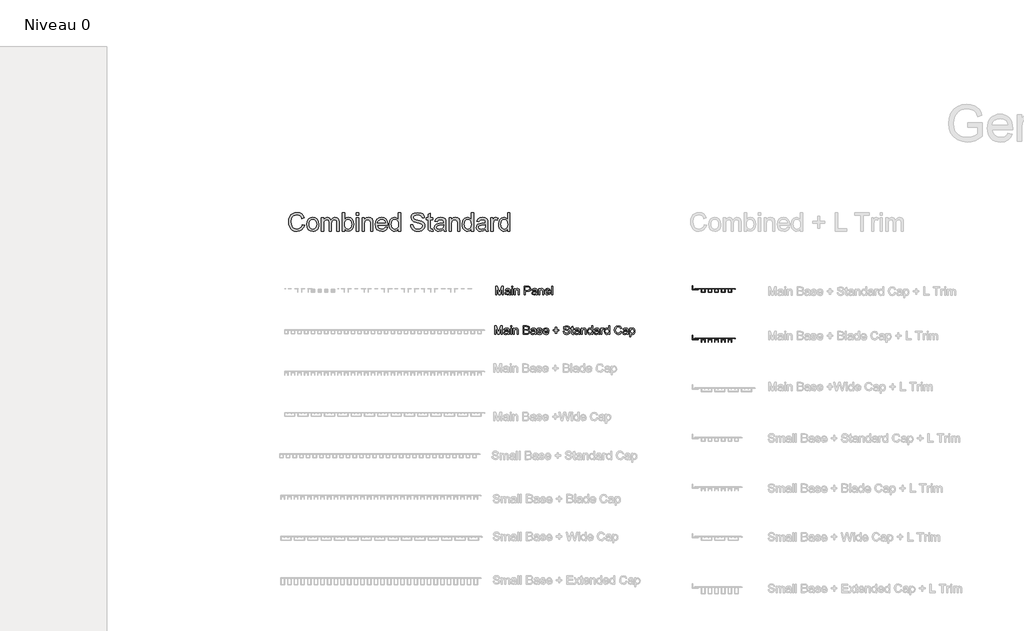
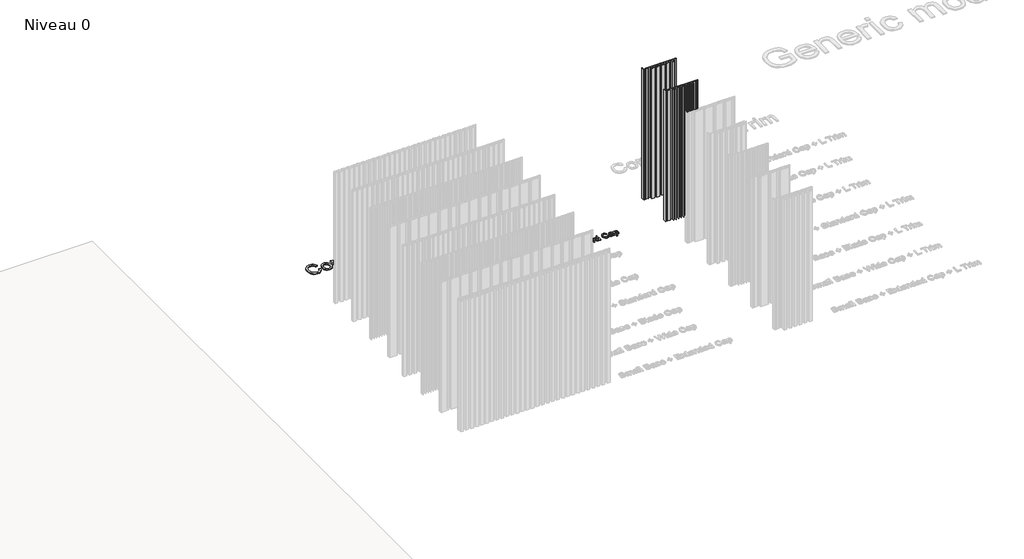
# One storey, part 8 of 25: 5 proxies.
"""IFC4 building model written with IfcOpenShell, lengths in millimetres."""

from ifc_helpers import new_model, si_unit, origin, origin_with_axes, place, context, project, spatial, polyline, outline, extrude, transform, mapped, element, save
from components import generic_models_4bb52701, generic_models_e953c286

model = new_model("IFC4")

# Units and contexts
model_context = context("Model", 3, world=origin())
ifc_project = project(units=[si_unit("LENGTHUNIT", "METRE", prefix="MILLI")], contexts=[model_context])

# Site, building, storey
site = spatial("IfcSite", under=ifc_project)
building = spatial("IfcBuilding", under=site)
storey = spatial("IfcBuildingStorey", under=building, Name="Niveau 0", Elevation=0.0)

# Proxies
placement = place(None, origin())
generic_models_shape = generic_models_4bb52701(model_context)
element("IfcBuildingElementProxy", 1, Name="A_GEN_LINE_Main Base_Standard Cap_LTrim : A_GEN_LINE_Main Base_Standard Cap_LTrim", ObjectType="A_GEN_LINE_Main Base_Standard Cap_LTrim : A_GEN_LINE_Main Base_Standard Cap_LTrim", at=placement, inside=storey, context=model_context, shape_type="MappedRepresentation", body=[
    mapped(generic_models_shape, transform((-23.2337478, 4570.5855038, 0.0), x_axis=(1.0, 0.0, 0.0), y_axis=(0.0, 1.0, 0.0), z_axis=(0.0, 0.0, 1.0))),
])
generic_models_2_shape = generic_models_e953c286(model_context)
element("IfcBuildingElementProxy", 2, Name="A_GEN_LINE_Main Base_Blade Cap_LTrim : A_GEN_LINE_Main Base_Blade Cap_LTrim", ObjectType="A_GEN_LINE_Main Base_Blade Cap_LTrim : A_GEN_LINE_Main Base_Blade Cap_LTrim", at=placement, inside=storey, context=model_context, shape_type="MappedRepresentation", body=[
    mapped(generic_models_2_shape, transform((-23.2337478, 4160.8335735, 0.0), x_axis=(1.0, 0.0, 0.0), y_axis=(0.0, 1.0, 0.0), z_axis=(0.0, 0.0, 1.0))),
])
element("IfcBuildingElementProxy", 3, Name="150 mm Arial", ObjectType="150 mm Arial", at=placement, inside=storey, context=model_context, shape_type="SweptSolid", body=[
    extrude(outline(polyline([(-3266.8532918, 5099.4454374), (-3248.0177336, 5094.5893951), (-3256.7089457, 5072.6406355), (-3270.3481707, 5056.6055791), (-3288.2640239, 5046.7969254), (-3309.7851206, 5043.5273741), (-3331.6327126, 5046.0013806), (-3348.9829472, 5053.4233998), (-3362.2818813, 5065.5359145), (-3371.9755719, 5082.0814072), (-3377.8938735, 5101.5331677), (-3379.8666407, 5122.3644857), (-3377.6363561, 5144.3362379), (-3370.9455023, 5163.3097518), (-3360.1435672, 5178.6826207), (-3345.5800387, 5189.8524377), (-3328.307979, 5196.6536561), (-3309.3804504, 5198.9207289), (-3288.7284749, 5195.98687), (-3271.6541518, 5187.1852933), (-3258.69091, 5173.0586246), (-3250.3721784, 5154.1494901), (-3269.2077365, 5149.6613298), (-3275.7376419, 5163.3971238), (-3284.6587803, 5172.8195014), (-3296.0815163, 5178.2687534), (-3310.1162144, 5180.0851708), (-3326.2938251, 5178.0710168), (-3339.5835622, 5172.0285551), (-3349.6681274, 5162.5923819), (-3356.2302225, 5150.3970937), (-3361.0310825, 5122.4012739), (-3359.6101383, 5105.0004555), (-3355.3473057, 5089.9540819), (-3348.0816363, 5077.8369687), (-3337.6521817, 5069.2239315), (-3325.1487924, 5064.0781821), (-3311.6613188, 5062.3629323), (-3295.938962, 5064.698983), (-3282.8377644, 5071.707135), (-3272.9463373, 5083.3138119), (-3266.8532918, 5099.4454374)])), origin_with_axes(), (0.0, 0.0, 1.0), 10.0),
    extrude(outline(polyline([(-3229.1821754, 5101.211271), (-3225.1078824, 5127.8919127), (-3212.8850031, 5146.6446974), (-3197.7834472, 5155.8325502), (-3179.7020471, 5158.8951678), (-3159.9145943, 5155.1657641), (-3144.1094641, 5143.9775529), (-3133.7489874, 5126.2134511), (-3130.2954951, 5102.7563754), (-3131.8222054, 5083.7276792), (-3136.4023363, 5069.2423256), (-3143.9025304, 5058.3944053), (-3154.1894307, 5050.2780088), (-3166.4077115, 5045.2150328), (-3179.7020471, 5043.5273741), (-3199.7286232, 5047.2429823), (-3215.5153593, 5058.3898068), (-3225.7654714, 5076.5263891), (-3229.1821754, 5101.211271)]), holes=[polyline([(-3210.3466173, 5101.2480592), (-3208.1669165, 5084.2013272), (-3201.627814, 5072.0566229), (-3191.7869706, 5064.7863549), (-3179.7020471, 5062.3629323), (-3167.6723059, 5064.8001505), (-3157.8498566, 5072.1118052), (-3151.3107541, 5084.4174579), (-3149.1310533, 5101.8366704), (-3151.3245497, 5118.3867616), (-3157.9050389, 5130.3659191), (-3167.7412837, 5137.636187), (-3179.7020471, 5140.0596097), (-3191.7869706, 5137.6453841), (-3201.627814, 5130.4027073), (-3208.1669165, 5118.2855941), (-3210.3466173, 5101.2480592)])]), origin_with_axes(), (0.0, 0.0, 1.0), 10.0),
    extrude(outline(polyline([(-3109.1054922, 5045.8818189), (-3109.1054922, 5156.5407231), (-3090.2699341, 5156.5407231), (-3090.2699341, 5138.3305643), (-3077.3204878, 5153.2481792), (-3058.8895999, 5158.8951678), (-3048.4141601, 5157.4558295), (-3040.0172535, 5153.1378146), (-3029.6429813, 5137.0061891), (-3014.9460956, 5153.4229232), (-2996.3864489, 5158.8951678), (-2982.2275906, 5156.618898), (-2971.7567493, 5149.7900885), (-2965.2866247, 5138.2247982), (-2963.1299165, 5121.7390863), (-2963.1299165, 5045.8818189), (-2981.9654747, 5045.8818189), (-2981.9654747, 5113.6456824), (-2983.7129142, 5129.3726377), (-2990.0404845, 5137.1165537), (-3000.8010328, 5140.0596097), (-3011.0051597, 5138.1742145), (-3019.3238913, 5132.5180288), (-3024.8559168, 5122.7047766), (-3026.6999253, 5108.3481817), (-3026.6999253, 5045.8818189), (-3045.5354835, 5045.8818189), (-3045.5354835, 5115.7426098), (-3049.8948851, 5133.9895568), (-3055.6476398, 5138.5420965), (-3064.1871006, 5140.0596097), (-3078.1298282, 5136.0129077), (-3087.4004545, 5124.1671075), (-3090.2699341, 5101.6895176), (-3090.2699341, 5045.8818189), (-3109.1054922, 5045.8818189)])), origin_with_axes(), (0.0, 0.0, 1.0), 10.0),
    extrude(outline(polyline([(-2916.0410212, 5045.8818189), (-2934.8765793, 5045.8818189), (-2934.8765793, 5196.5662841), (-2916.0410212, 5196.5662841), (-2916.0410212, 5140.6850091), (-2902.8524516, 5154.3426281), (-2886.4633087, 5158.8951678), (-2867.5909624, 5154.7932836), (-2852.949259, 5143.260183), (-2843.9545442, 5125.3259358), (-2840.6987885, 5102.86674), (-2844.0695073, 5077.7220056), (-2854.1816637, 5059.0152061), (-2869.0211036, 5047.3993321), (-2886.5736733, 5043.5273741), (-2903.3215012, 5048.5213722), (-2916.0410212, 5063.5033665), (-2916.0410212, 5045.8818189)]), holes=[polyline([(-2916.0410212, 5101.9838232), (-2914.7534342, 5086.275262), (-2910.8906732, 5075.6434723), (-2901.0222387, 5065.6830673), (-2888.1923541, 5062.3629323), (-2877.3214412, 5064.8093476), (-2868.0324208, 5072.1485934), (-2861.6588652, 5084.3346845), (-2859.5343467, 5101.3216356), (-2861.5714932, 5118.5569071), (-2867.6829329, 5130.6050424), (-2876.6822462, 5137.6959679), (-2887.3830137, 5140.0596097), (-2898.2539267, 5137.6131944), (-2907.5429471, 5130.2739486), (-2913.9165026, 5118.3085867), (-2916.0410212, 5101.9838232)])]), origin_with_axes(), (0.0, 0.0, 1.0), 10.0),
    extrude(outline(polyline([(-2819.5087856, 5045.8818189), (-2819.5087856, 5156.5407231), (-2800.6732275, 5156.5407231), (-2800.6732275, 5045.8818189), (-2819.5087856, 5045.8818189)])), origin_with_axes(), (0.0, 0.0, 1.0), 10.0),
    extrude(outline(polyline([(-2819.5087856, 5177.730726), (-2819.5087856, 5196.5662841), (-2800.6732275, 5196.5662841), (-2800.6732275, 5177.730726), (-2819.5087856, 5177.730726)])), origin_with_axes(), (0.0, 0.0, 1.0), 10.0),
    extrude(outline(polyline([(-2772.4198902, 5045.8818189), (-2772.4198902, 5156.5407231), (-2753.5843321, 5156.5407231), (-2753.5843321, 5141.0896793), (-2739.181752, 5154.4437957), (-2719.5184593, 5158.8951678), (-2701.7313649, 5155.3083184), (-2689.591259, 5145.8905393), (-2683.9442704, 5132.0397822), (-2682.950989, 5113.8296234), (-2682.950989, 5045.8818189), (-2701.7865472, 5045.8818189), (-2701.7865472, 5111.2912377), (-2703.9570509, 5127.956292), (-2711.6273905, 5136.7670658), (-2724.5584427, 5140.0596097), (-2735.590304, 5138.2110027), (-2744.9942875, 5132.6651816), (-2751.4368209, 5121.9506185), (-2753.5843321, 5104.5957853), (-2753.5843321, 5045.8818189), (-2772.4198902, 5045.8818189)])), origin_with_axes(), (0.0, 0.0, 1.0), 10.0),
    extrude(outline(polyline([(-2579.5761484, 5078.8440457), (-2561.1084722, 5076.4896009), (-2567.7625378, 5062.5744644), (-2578.3805319, 5052.172601), (-2592.7233312, 5045.6886809), (-2610.5518124, 5043.5273741), (-2632.6523232, 5047.2567779), (-2649.6576684, 5058.4449891), (-2660.5009903, 5076.3654407), (-2664.1154309, 5100.291566), (-2660.4642021, 5125.0224331), (-2649.5105156, 5143.5177004), (-2632.7350967, 5155.050801), (-2611.6186701, 5158.8951678), (-2591.1598327, 5155.059998), (-2574.8120765, 5143.5544886), (-2564.0929149, 5125.0960095), (-2560.519861, 5100.4019306), (-2560.6302256, 5095.3251591), (-2645.2798727, 5095.3251591), (-2642.0195185, 5081.2260816), (-2634.4457479, 5070.8610064), (-2623.5150542, 5064.4874508), (-2610.1839304, 5062.3629323), (-2591.7162542, 5066.2992696), (-2579.5761484, 5078.8440457)]), holes=[polyline([(-2645.2798727, 5114.1607172), (-2579.3554192, 5114.1607172), (-2581.903002, 5124.1119252), (-2586.8970001, 5131.2304418), (-2597.8782776, 5137.8523177), (-2611.6922465, 5140.0596097), (-2624.3887739, 5138.2983746), (-2634.8872063, 5133.0146695), (-2642.1850654, 5124.7787113), (-2645.2798727, 5114.1607172)])]), origin_with_axes(), (0.0, 0.0, 1.0), 10.0),
    extrude(outline(polyline([(-2473.4054046, 5045.8818189), (-2473.4054046, 5063.6505193), (-2485.8674071, 5048.5581604), (-2503.0934816, 5043.5273741), (-2515.2703756, 5045.34839), (-2526.4172001, 5050.8114377), (-2535.8533732, 5059.5348395), (-2542.8983134, 5071.1369179), (-2547.2853062, 5085.1486234), (-2548.7476372, 5101.1009064), (-2543.3581659, 5131.083289), (-2536.6259254, 5142.9750745), (-2527.2081464, 5151.7214689), (-2515.8176001, 5157.1017431), (-2503.167058, 5158.8951678), (-2485.8030278, 5153.763214), (-2473.4054046, 5140.4274917), (-2473.4054046, 5196.5662841), (-2454.5698464, 5196.5662841), (-2454.5698464, 5045.8818189), (-2473.4054046, 5045.8818189)]), holes=[polyline([(-2529.912079, 5101.1744828), (-2527.7875605, 5084.1369479), (-2521.4140049, 5072.0198347), (-2512.1525757, 5064.7771579), (-2501.3644362, 5062.3629323), (-2490.5808952, 5064.6667933), (-2481.5539908, 5071.5783763), (-2475.4425511, 5083.22644), (-2473.4054046, 5099.739743), (-2475.4793393, 5117.7935519), (-2481.7011435, 5130.3107368), (-2490.9579743, 5137.6223915), (-2502.1369884, 5140.0596097), (-2513.0354925, 5137.7189605), (-2521.9658279, 5130.6970129), (-2527.9255162, 5118.635082), (-2529.912079, 5101.1744828)])]), origin_with_axes(), (0.0, 0.0, 1.0), 10.0),
    extrude(outline(polyline([(-2372.1642795, 5097.6796038), (-2353.3287213, 5097.6796038), (-2347.2586684, 5078.8256516), (-2332.433024, 5066.9062749), (-2309.8450695, 5062.3629323), (-2290.1633828, 5065.802629), (-2277.4530598, 5075.2571962), (-2273.2775992, 5087.8939428), (-2276.4045961, 5099.6477725), (-2289.2068896, 5108.2010289), (-2316.6324923, 5115.3931219), (-2346.1550224, 5124.6821423), (-2362.1762833, 5138.6984463), (-2367.4553899, 5157.4236399), (-2365.8229136, 5168.4555012), (-2360.9254845, 5178.7424015), (-2352.8918615, 5187.4612048), (-2341.8508031, 5193.7887751), (-2313.9285596, 5198.9207289), (-2284.130118, 5193.5496518), (-2272.7073821, 5186.9185788), (-2264.2644903, 5177.7675142), (-2258.9210043, 5166.666675), (-2256.7964858, 5154.1862783), (-2275.632044, 5154.1862783), (-2279.0901347, 5165.4250732), (-2286.3006218, 5173.5368712), (-2297.5670079, 5178.4480959), (-2313.1927957, 5180.0851708), (-2329.1864654, 5178.46649), (-2340.1585459, 5173.6104476), (-2346.5045103, 5166.4643399), (-2348.6198318, 5157.9754628), (-2347.1207127, 5150.7373846), (-2342.6233553, 5144.915652), (-2311.8684205, 5134.394227), (-2278.5383117, 5124.9396597), (-2267.800756, 5118.1062516), (-2260.3097589, 5109.6725569), (-2255.9089705, 5099.730546), (-2254.442041, 5088.3721894), (-2256.1296997, 5076.7609139), (-2261.1926756, 5065.8394172), (-2269.4240353, 5056.4400322), (-2280.616845, 5049.395092), (-2294.0767275, 5044.9943036), (-2309.1093055, 5043.5273741), (-2327.5631861, 5045.1092667), (-2342.752114, 5049.8549445), (-2354.8508331, 5057.7828015), (-2364.0340874, 5068.9112318), (-2369.9293964, 5082.4676833), (-2372.1642795, 5097.6796038)])), origin_with_axes(), (0.0, 0.0, 1.0), 10.0),
    extrude(outline(polyline([(-2188.5175875, 5061.5903801), (-2186.1631427, 5045.3299959), (-2200.2530231, 5043.5273741), (-2216.0351607, 5046.6543711), (-2223.9078354, 5054.8581396), (-2226.1887038, 5076.2320835), (-2226.1887038, 5137.7051649), (-2240.3153724, 5137.7051649), (-2240.3153724, 5156.5407231), (-2226.1887038, 5156.5407231), (-2226.1887038, 5183.4328969), (-2207.3531456, 5194.506145), (-2207.3531456, 5156.5407231), (-2188.5175875, 5156.5407231), (-2188.5175875, 5137.7051649), (-2207.3531456, 5137.7051649), (-2207.3531456, 5076.7839065), (-2206.3598643, 5067.0718218), (-2203.1408968, 5063.6321252), (-2196.721356, 5062.3629323), (-2188.5175875, 5061.5903801)])), origin_with_axes(), (0.0, 0.0, 1.0), 10.0),
    extrude(outline(polyline([(-2099.0486863, 5060.0084875), (-2117.3140273, 5047.2429823), (-2137.4923548, 5043.5273741), (-2153.2331056, 5045.7622573), (-2164.8443811, 5052.4669066), (-2172.0042844, 5062.6480408), (-2174.3909189, 5075.3123785), (-2170.7856753, 5090.2115993), (-2161.3127139, 5101.02733), (-2148.1241444, 5107.2077475), (-2131.826972, 5110.0404389), (-2099.1590509, 5116.515162), (-2099.0486863, 5120.7090167), (-2100.3454703, 5129.1151203), (-2104.2358224, 5134.6149562), (-2112.9362316, 5138.6984463), (-2125.0579433, 5140.0596097), (-2144.1142307, 5136.435972), (-2153.200916, 5123.5784963), (-2172.0364741, 5125.9329411), (-2163.8878879, 5144.3270408), (-2147.4803509, 5155.1059833), (-2122.6299222, 5158.8951678), (-2099.8028444, 5155.5474417), (-2086.9085804, 5147.1413381), (-2081.1328331, 5134.3574388), (-2080.2131281, 5117.8763254), (-2080.2131281, 5094.4422423), (-2079.2566349, 5061.7191388), (-2075.5042386, 5045.8818189), (-2094.3397967, 5045.8818189), (-2099.0486863, 5060.0084875)]), holes=[polyline([(-2099.0486863, 5097.6796038), (-2129.4357391, 5091.9038565), (-2145.640941, 5088.850436), (-2152.9801868, 5083.884029), (-2155.5553607, 5076.6367537), (-2149.9451603, 5066.4464224), (-2133.482441, 5062.3629323), (-2114.4261537, 5066.8694867), (-2102.138895, 5077.7771879), (-2099.1590509, 5092.3453149), (-2099.0486863, 5097.6796038)])]), origin_with_axes(), (0.0, 0.0, 1.0), 10.0),
    extrude(outline(polyline([(-2054.3142357, 5045.8818189), (-2054.3142357, 5156.5407231), (-2035.4786775, 5156.5407231), (-2035.4786775, 5141.0896793), (-2021.0760974, 5154.4437957), (-2001.4128047, 5158.8951678), (-1983.6257103, 5155.3083184), (-1971.4856044, 5145.8905393), (-1965.8386158, 5132.0397822), (-1964.8453344, 5113.8296234), (-1964.8453344, 5045.8818189), (-1983.6808926, 5045.8818189), (-1983.6808926, 5111.2912377), (-1985.8513963, 5127.956292), (-1993.5217359, 5136.7670658), (-2006.4527881, 5140.0596097), (-2017.4846494, 5138.2110027), (-2026.8886329, 5132.6651816), (-2033.3311664, 5121.9506185), (-2035.4786775, 5104.5957853), (-2035.4786775, 5045.8818189), (-2054.3142357, 5045.8818189)])), origin_with_axes(), (0.0, 0.0, 1.0), 10.0),
    extrude(outline(polyline([(-1870.6675437, 5045.8818189), (-1870.6675437, 5063.6505193), (-1883.1295462, 5048.5581604), (-1900.3556207, 5043.5273741), (-1912.5325147, 5045.34839), (-1923.6793392, 5050.8114377), (-1933.1155123, 5059.5348395), (-1940.1604525, 5071.1369179), (-1944.5474453, 5085.1486234), (-1946.0097763, 5101.1009064), (-1940.620305, 5131.083289), (-1933.8880645, 5142.9750745), (-1924.4702855, 5151.7214689), (-1913.0797392, 5157.1017431), (-1900.4291971, 5158.8951678), (-1883.0651669, 5153.763214), (-1870.6675437, 5140.4274917), (-1870.6675437, 5196.5662841), (-1851.8319855, 5196.5662841), (-1851.8319855, 5045.8818189), (-1870.6675437, 5045.8818189)]), holes=[polyline([(-1927.1742181, 5101.1744828), (-1925.0496996, 5084.1369479), (-1918.676144, 5072.0198347), (-1909.4147148, 5064.7771579), (-1898.6265753, 5062.3629323), (-1887.8430343, 5064.6667933), (-1878.8161299, 5071.5783763), (-1872.7046902, 5083.22644), (-1870.6675437, 5099.739743), (-1872.7414784, 5117.7935519), (-1878.9632827, 5130.3107368), (-1888.2201134, 5137.6223915), (-1899.3991275, 5140.0596097), (-1910.2976316, 5137.7189605), (-1919.227967, 5130.6970129), (-1925.1876553, 5118.635082), (-1927.1742181, 5101.1744828)])]), origin_with_axes(), (0.0, 0.0, 1.0), 10.0),
    extrude(outline(polyline([(-1752.9453052, 5060.0084875), (-1771.2106463, 5047.2429823), (-1791.3889737, 5043.5273741), (-1807.1297246, 5045.7622573), (-1818.741, 5052.4669066), (-1825.9009034, 5062.6480408), (-1828.2875378, 5075.3123785), (-1824.6822943, 5090.2115993), (-1815.2093329, 5101.02733), (-1802.0207634, 5107.2077475), (-1785.723591, 5110.0404389), (-1753.0556698, 5116.515162), (-1752.9453052, 5120.7090167), (-1754.2420892, 5129.1151203), (-1758.1324413, 5134.6149562), (-1766.8328505, 5138.6984463), (-1778.9545623, 5140.0596097), (-1798.0108496, 5136.435972), (-1807.0975349, 5123.5784963), (-1825.933093, 5125.9329411), (-1817.7845069, 5144.3270408), (-1801.3769699, 5155.1059833), (-1776.5265411, 5158.8951678), (-1753.6994633, 5155.5474417), (-1740.8051994, 5147.1413381), (-1735.029452, 5134.3574388), (-1734.1097471, 5117.8763254), (-1734.1097471, 5094.4422423), (-1733.1532539, 5061.7191388), (-1729.4008575, 5045.8818189), (-1748.2364157, 5045.8818189), (-1752.9453052, 5060.0084875)]), holes=[polyline([(-1752.9453052, 5097.6796038), (-1783.332358, 5091.9038565), (-1799.5375599, 5088.850436), (-1806.8768057, 5083.884029), (-1809.4519797, 5076.6367537), (-1803.8417792, 5066.4464224), (-1787.37906, 5062.3629323), (-1768.3227726, 5066.8694867), (-1756.035514, 5077.7771879), (-1753.0556698, 5092.3453149), (-1752.9453052, 5097.6796038)])]), origin_with_axes(), (0.0, 0.0, 1.0), 10.0),
    extrude(outline(polyline([(-1708.2108546, 5045.8818189), (-1708.2108546, 5156.5407231), (-1691.7297412, 5156.5407231), (-1691.7297412, 5140.1699743), (-1680.0310938, 5155.2531361), (-1668.2588699, 5158.8951678), (-1649.3497354, 5153.0826323), (-1655.6405175, 5136.1968487), (-1668.8842693, 5140.0596097), (-1679.5344531, 5136.3440015), (-1686.3218759, 5126.0433057), (-1689.3752964, 5104.0439624), (-1689.3752964, 5045.8818189), (-1708.2108546, 5045.8818189)])), origin_with_axes(), (0.0, 0.0, 1.0), 10.0),
    extrude(outline(polyline([(-1569.2986132, 5045.8818189), (-1569.2986132, 5063.6505193), (-1581.7606158, 5048.5581604), (-1598.9866902, 5043.5273741), (-1611.1635843, 5045.34839), (-1622.3104087, 5050.8114377), (-1631.7465819, 5059.5348395), (-1638.7915221, 5071.1369179), (-1643.1785149, 5085.1486234), (-1644.6408458, 5101.1009064), (-1639.2513746, 5131.083289), (-1632.5191341, 5142.9750745), (-1623.101355, 5151.7214689), (-1611.7108087, 5157.1017431), (-1599.0602666, 5158.8951678), (-1581.6962364, 5153.763214), (-1569.2986132, 5140.4274917), (-1569.2986132, 5196.5662841), (-1550.4630551, 5196.5662841), (-1550.4630551, 5045.8818189), (-1569.2986132, 5045.8818189)]), holes=[polyline([(-1625.8052877, 5101.1744828), (-1623.6807691, 5084.1369479), (-1617.3072136, 5072.0198347), (-1608.0457844, 5064.7771579), (-1597.2576448, 5062.3629323), (-1586.4741039, 5064.6667933), (-1577.4471994, 5071.5783763), (-1571.3357598, 5083.22644), (-1569.2986132, 5099.739743), (-1571.372548, 5117.7935519), (-1577.5943522, 5130.3107368), (-1586.8511829, 5137.6223915), (-1598.030197, 5140.0596097), (-1608.9287011, 5137.7189605), (-1617.8590366, 5130.6970129), (-1623.8187249, 5118.635082), (-1625.8052877, 5101.1744828)])]), origin_with_axes(), (0.0, 0.0, 1.0), 10.0),
])
element("IfcBuildingElementProxy", 4, Name="70mm Arial", ObjectType="70mm Arial", at=placement, inside=storey, context=model_context, shape_type="SweptSolid", body=[
    extrude(outline(polyline([(-1669.0322913, 4518.965849), (-1669.0322913, 4589.2852661), (-1653.9074362, 4589.2852661), (-1639.5207977, 4539.7217512), (-1636.619435, 4529.3695518), (-1633.4777228, 4540.5801425), (-1619.3314338, 4589.2852661), (-1604.2065787, 4589.2852661), (-1604.2065787, 4518.965849), (-1612.9965058, 4518.965849), (-1612.9965058, 4580.495339), (-1630.6621992, 4518.965849), (-1642.5766708, 4518.965849), (-1660.2423642, 4580.495339), (-1660.2423642, 4518.965849), (-1669.0322913, 4518.965849)])), origin_with_axes(), (0.0, 0.0, 1.0), 10.0),
    extrude(outline(polyline([(-1556.9607203, 4525.5582944), (-1565.4845461, 4519.6010586), (-1574.901099, 4517.8671081), (-1587.6653779, 4522.0388899), (-1592.1204289, 4532.7001102), (-1590.4379819, 4539.6530799), (-1586.0172666, 4544.7004208), (-1579.8626008, 4547.5846157), (-1572.2572537, 4548.9065383), (-1557.0122238, 4551.9280758), (-1556.9607203, 4553.885208), (-1559.3813838, 4560.3746464), (-1569.0983736, 4562.9154847), (-1577.9913077, 4561.2244538), (-1582.2317608, 4555.2242984), (-1591.021688, 4556.3230393), (-1587.2190144, 4564.9069526), (-1579.5621638, 4569.9371257), (-1567.9652971, 4571.7054118), (-1557.3126608, 4570.1431396), (-1551.2953376, 4566.2202913), (-1548.5999888, 4560.2544716), (-1548.1707932, 4552.5632853), (-1548.1707932, 4541.6273799), (-1547.7244297, 4526.3565983), (-1545.9733114, 4518.965849), (-1554.7632385, 4518.965849), (-1556.9607203, 4525.5582944)]), holes=[polyline([(-1556.9607203, 4543.1381486), (-1571.141345, 4540.4427999), (-1578.7037725, 4539.0178703), (-1582.1287539, 4536.7002137), (-1583.3305017, 4533.3181519), (-1580.7124082, 4528.562664), (-1573.0298059, 4526.6570352), (-1564.1368718, 4528.760094), (-1558.4028177, 4533.8503545), (-1557.0122238, 4540.6488138), (-1556.9607203, 4543.1381486)])]), origin_with_axes(), (0.0, 0.0, 1.0), 10.0),
    extrude(outline(polyline([(-1536.0846434, 4518.965849), (-1536.0846434, 4570.6066709), (-1527.2947162, 4570.6066709), (-1527.2947162, 4518.965849), (-1536.0846434, 4518.965849)])), origin_with_axes(), (0.0, 0.0, 1.0), 10.0),
    extrude(outline(polyline([(-1536.0846434, 4580.495339), (-1536.0846434, 4589.2852661), (-1527.2947162, 4589.2852661), (-1527.2947162, 4580.495339), (-1536.0846434, 4580.495339)])), origin_with_axes(), (0.0, 0.0, 1.0), 10.0),
    extrude(outline(polyline([(-1514.1098255, 4518.965849), (-1514.1098255, 4570.6066709), (-1505.3198984, 4570.6066709), (-1505.3198984, 4563.3961838), (-1498.5986943, 4569.6281048), (-1489.4224911, 4571.7054118), (-1481.121847, 4570.0315487), (-1475.4564643, 4565.6365852), (-1472.8212029, 4559.1728985), (-1472.3576716, 4550.6748244), (-1472.3576716, 4518.965849), (-1481.1475988, 4518.965849), (-1481.1475988, 4549.4902444), (-1482.1605005, 4557.2672698), (-1485.7399923, 4561.3789642), (-1491.7744833, 4562.9154847), (-1501.3112109, 4559.4647516), (-1505.3198984, 4546.3657), (-1505.3198984, 4518.965849), (-1514.1098255, 4518.965849)])), origin_with_axes(), (0.0, 0.0, 1.0), 10.0),
    extrude(outline(polyline([(-1431.7042586, 4518.965849), (-1431.7042586, 4589.2852661), (-1405.6434981, 4589.2852661), (-1395.1367883, 4588.6157209), (-1386.5957946, 4585.3280821), (-1381.0591706, 4578.5296228), (-1378.9646958, 4568.9413918), (-1384.6214946, 4553.7478654), (-1392.5551764, 4549.0868005), (-1405.0426241, 4547.5331122), (-1422.9143315, 4547.5331122), (-1422.9143315, 4518.965849), (-1431.7042586, 4518.965849)]), holes=[polyline([(-1422.9143315, 4556.3230393), (-1404.5275893, 4556.3230393), (-1391.5830482, 4559.5505907), (-1387.7546229, 4568.6323709), (-1390.0121921, 4575.9115293), (-1395.9436761, 4579.894465), (-1404.7336033, 4580.495339), (-1422.9143315, 4580.495339), (-1422.9143315, 4556.3230393)])]), origin_with_axes(), (0.0, 0.0, 1.0), 10.0),
    extrude(outline(polyline([(-1335.0150601, 4525.5582944), (-1343.5388859, 4519.6010586), (-1352.9554387, 4517.8671081), (-1365.7197177, 4522.0388899), (-1370.1747686, 4532.7001102), (-1368.4923216, 4539.6530799), (-1364.0716063, 4544.7004208), (-1357.9169406, 4547.5846157), (-1350.3115934, 4548.9065383), (-1335.0665636, 4551.9280758), (-1335.0150601, 4553.885208), (-1337.4357236, 4560.3746464), (-1347.1527134, 4562.9154847), (-1356.0456475, 4561.2244538), (-1360.2861006, 4555.2242984), (-1369.0760277, 4556.3230393), (-1365.2733542, 4564.9069526), (-1357.6165036, 4569.9371257), (-1346.0196368, 4571.7054118), (-1335.3670005, 4570.1431396), (-1329.3496774, 4566.2202913), (-1326.6543286, 4560.2544716), (-1326.2251329, 4552.5632853), (-1326.2251329, 4541.6273799), (-1325.7787695, 4526.3565983), (-1324.0276512, 4518.965849), (-1332.8175783, 4518.965849), (-1335.0150601, 4525.5582944)]), holes=[polyline([(-1335.0150601, 4543.1381486), (-1349.1956847, 4540.4427999), (-1356.7581123, 4539.0178703), (-1360.1830936, 4536.7002137), (-1361.3848415, 4533.3181519), (-1358.766748, 4528.562664), (-1351.0841456, 4526.6570352), (-1342.1912115, 4528.760094), (-1336.4571575, 4533.8503545), (-1335.0665636, 4540.6488138), (-1335.0150601, 4543.1381486)])]), origin_with_axes(), (0.0, 0.0, 1.0), 10.0),
    extrude(outline(polyline([(-1314.1389831, 4518.965849), (-1314.1389831, 4570.6066709), (-1305.349056, 4570.6066709), (-1305.349056, 4563.3961838), (-1298.6278519, 4569.6281048), (-1289.4516487, 4571.7054118), (-1281.1510046, 4570.0315487), (-1275.4856219, 4565.6365852), (-1272.8503605, 4559.1728985), (-1272.3868292, 4550.6748244), (-1272.3868292, 4518.965849), (-1281.1767564, 4518.965849), (-1281.1767564, 4549.4902444), (-1282.1896581, 4557.2672698), (-1285.7691499, 4561.3789642), (-1291.8036409, 4562.9154847), (-1301.3403685, 4559.4647516), (-1305.349056, 4546.3657), (-1305.349056, 4518.965849), (-1314.1389831, 4518.965849)])), origin_with_axes(), (0.0, 0.0, 1.0), 10.0),
    extrude(outline(polyline([(-1224.1452369, 4534.3482215), (-1215.5269881, 4533.2494806), (-1223.5872826, 4521.9015473), (-1238.6005468, 4517.8671081), (-1248.9141185, 4519.6074965), (-1256.8499463, 4524.8286617), (-1261.9101631, 4533.1915392), (-1263.5969021, 4544.3570643), (-1261.8929953, 4555.8981356), (-1256.781275, 4564.5292604), (-1248.9527461, 4569.911374), (-1239.0984138, 4571.7054118), (-1229.5509563, 4569.9156659), (-1221.9220034, 4564.5464282), (-1216.919728, 4555.9324713), (-1215.2523028, 4544.4085678), (-1215.3038063, 4542.0394077), (-1254.8069749, 4542.0394077), (-1249.7510501, 4530.6228032), (-1238.4288685, 4526.6570352), (-1229.8106197, 4528.4939927), (-1224.1452369, 4534.3482215)]), holes=[polyline([(-1254.8069749, 4550.8293349), (-1224.04223, 4550.8293349), (-1227.5616344, 4558.7952063), (-1239.1327494, 4562.9154847), (-1249.957064, 4559.6278459), (-1254.8069749, 4550.8293349)])]), origin_with_axes(), (0.0, 0.0, 1.0), 10.0),
    extrude(outline(polyline([(-1206.4623757, 4518.965849), (-1206.4623757, 4589.2852661), (-1197.6724486, 4589.2852661), (-1197.6724486, 4518.965849), (-1206.4623757, 4518.965849)])), origin_with_axes(), (0.0, 0.0, 1.0), 10.0),
])
element("IfcBuildingElementProxy", 5, Name="70mm Arial", ObjectType="70mm Arial", at=placement, inside=storey, context=model_context, shape_type="SweptSolid", body=[
    extrude(outline(polyline([(-1677.922418, 4191.9167191), (-1677.922418, 4262.2361362), (-1662.7975629, 4262.2361362), (-1648.4109244, 4212.6726213), (-1645.5095617, 4202.320422), (-1642.3678494, 4213.5310126), (-1628.2215605, 4262.2361362), (-1613.0967054, 4262.2361362), (-1613.0967054, 4191.9167191), (-1621.8866325, 4191.9167191), (-1621.8866325, 4253.4462091), (-1639.5523259, 4191.9167191), (-1651.4667975, 4191.9167191), (-1669.1324909, 4253.4462091), (-1669.1324909, 4191.9167191), (-1677.922418, 4191.9167191)])), origin_with_axes(), (0.0, 0.0, 1.0), 10.0),
    extrude(outline(polyline([(-1565.850847, 4198.5091645), (-1574.3746728, 4192.5519287), (-1583.7912256, 4190.8179782), (-1596.5555046, 4194.9897601), (-1601.0105555, 4205.6509803), (-1599.3281086, 4212.60395), (-1594.9073932, 4217.651291), (-1588.7527275, 4220.5354858), (-1581.1473804, 4221.8574084), (-1565.9023505, 4224.8789459), (-1565.850847, 4226.8360781), (-1568.2715105, 4233.3255165), (-1577.9885003, 4235.8663548), (-1586.8814344, 4234.1753239), (-1591.1218875, 4228.1751686), (-1599.9118147, 4229.2739095), (-1596.1091411, 4237.8578227), (-1588.4522905, 4242.8879958), (-1576.8554237, 4244.656282), (-1566.2027874, 4243.0940098), (-1560.1854643, 4239.1711614), (-1557.4901155, 4233.2053417), (-1557.0609199, 4225.5141555), (-1557.0609199, 4214.57825), (-1556.6145564, 4199.3074684), (-1554.8634381, 4191.9167191), (-1563.6533652, 4191.9167191), (-1565.850847, 4198.5091645)]), holes=[polyline([(-1565.850847, 4216.0890188), (-1580.0314716, 4213.39367), (-1587.5938992, 4211.9687404), (-1591.0188806, 4209.6510838), (-1592.2206284, 4206.269022), (-1589.6025349, 4201.5135341), (-1581.9199325, 4199.6079054), (-1573.0269984, 4201.7109641), (-1567.2929444, 4206.8012247), (-1565.9023505, 4213.5996839), (-1565.850847, 4216.0890188)])]), origin_with_axes(), (0.0, 0.0, 1.0), 10.0),
    extrude(outline(polyline([(-1544.97477, 4191.9167191), (-1544.97477, 4243.5575411), (-1536.1848429, 4243.5575411), (-1536.1848429, 4191.9167191), (-1544.97477, 4191.9167191)])), origin_with_axes(), (0.0, 0.0, 1.0), 10.0),
    extrude(outline(polyline([(-1544.97477, 4253.4462091), (-1544.97477, 4262.2361362), (-1536.1848429, 4262.2361362), (-1536.1848429, 4253.4462091), (-1544.97477, 4253.4462091)])), origin_with_axes(), (0.0, 0.0, 1.0), 10.0),
    extrude(outline(polyline([(-1522.9999522, 4191.9167191), (-1522.9999522, 4243.5575411), (-1514.2100251, 4243.5575411), (-1514.2100251, 4236.347054), (-1507.488821, 4242.578975), (-1498.3126178, 4244.656282), (-1490.0119737, 4242.9824189), (-1484.346591, 4238.5874553), (-1481.7113296, 4232.1237687), (-1481.2477983, 4223.6256946), (-1481.2477983, 4191.9167191), (-1490.0377254, 4191.9167191), (-1490.0377254, 4222.4411145), (-1491.0506272, 4230.2181399), (-1494.630119, 4234.3298344), (-1500.66461, 4235.8663548), (-1510.2013376, 4232.4156217), (-1514.2100251, 4219.3165701), (-1514.2100251, 4191.9167191), (-1522.9999522, 4191.9167191)])), origin_with_axes(), (0.0, 0.0, 1.0), 10.0),
    extrude(outline(polyline([(-1440.5943853, 4191.9167191), (-1440.5943853, 4262.2361362), (-1413.7610726, 4262.2361362), (-1400.6191014, 4260.1674131), (-1392.8592439, 4253.8067335), (-1390.0523042, 4244.8107924), (-1392.4128804, 4236.5959874), (-1399.5461123, 4230.3726504), (-1390.8849438, 4223.8145407), (-1387.8548224, 4212.8786352), (-1389.9235455, 4203.4277468), (-1395.0481417, 4196.6979588), (-1402.6964084, 4193.1270509), (-1413.9670865, 4191.9167191), (-1440.5943853, 4191.9167191)]), holes=[polyline([(-1431.8044581, 4233.668873), (-1415.7525404, 4233.668873), (-1406.3789072, 4234.4242574), (-1400.7392762, 4237.6775605), (-1398.8422314, 4243.4030306), (-1400.6105175, 4249.1370847), (-1405.6750263, 4252.5277304), (-1416.9714561, 4253.4462091), (-1431.8044581, 4253.4462091), (-1431.8044581, 4233.668873)]), polyline([(-1431.8044581, 4200.7066463), (-1413.7782404, 4200.7066463), (-1407.2544663, 4201.0500028), (-1401.7350101, 4202.9642154), (-1398.0782631, 4206.869896), (-1396.6447496, 4212.7927961), (-1398.3271966, 4219.625591), (-1403.7779815, 4223.7029498), (-1414.6366317, 4224.8789459), (-1431.8044581, 4224.8789459), (-1431.8044581, 4200.7066463)])]), origin_with_axes(), (0.0, 0.0, 1.0), 10.0),
    extrude(outline(polyline([(-1343.9051868, 4198.5091645), (-1352.4290126, 4192.5519287), (-1361.8455654, 4190.8179782), (-1374.6098444, 4194.9897601), (-1379.0648953, 4205.6509803), (-1377.3824483, 4212.60395), (-1372.961733, 4217.651291), (-1366.8070672, 4220.5354858), (-1359.2017201, 4221.8574084), (-1343.9566902, 4224.8789459), (-1343.9051868, 4226.8360781), (-1346.3258503, 4233.3255165), (-1356.0428401, 4235.8663548), (-1364.9357742, 4234.1753239), (-1369.1762273, 4228.1751686), (-1377.9661544, 4229.2739095), (-1374.1634809, 4237.8578227), (-1366.5066303, 4242.8879958), (-1354.9097635, 4244.656282), (-1344.2571272, 4243.0940098), (-1338.239804, 4239.1711614), (-1335.5444553, 4233.2053417), (-1335.1152596, 4225.5141555), (-1335.1152596, 4214.57825), (-1334.6688961, 4199.3074684), (-1332.9177778, 4191.9167191), (-1341.707705, 4191.9167191), (-1343.9051868, 4198.5091645)]), holes=[polyline([(-1343.9051868, 4216.0890188), (-1358.0858114, 4213.39367), (-1365.6482389, 4211.9687404), (-1369.0732203, 4209.6510838), (-1370.2749682, 4206.269022), (-1367.6568746, 4201.5135341), (-1359.9742723, 4199.6079054), (-1351.0813382, 4201.7109641), (-1345.3472842, 4206.8012247), (-1343.9566902, 4213.5996839), (-1343.9051868, 4216.0890188)])]), origin_with_axes(), (0.0, 0.0, 1.0), 10.0),
    extrude(outline(polyline([(-1326.3253325, 4207.2990916), (-1317.5354053, 4208.3978325), (-1313.4666305, 4201.8740585), (-1304.1445007, 4199.6079054), (-1295.1828953, 4201.6852124), (-1292.2643648, 4206.5608751), (-1295.2000631, 4210.5094752), (-1304.2475077, 4213.0159778), (-1317.4839019, 4217.3165183), (-1323.2608755, 4222.3381076), (-1325.2265916, 4229.4284199), (-1323.6471516, 4235.9779457), (-1319.3380271, 4240.9823671), (-1313.7498996, 4243.5832928), (-1306.1874721, 4244.656282), (-1295.4919162, 4242.9309154), (-1288.6934569, 4238.2612666), (-1285.6719195, 4230.3726504), (-1294.4618466, 4229.2739095), (-1297.7666532, 4234.1238204), (-1305.500759, 4235.8663548), (-1313.912994, 4234.2010757), (-1316.4366645, 4230.3211469), (-1315.389427, 4227.7631407), (-1312.1103722, 4225.8231764), (-1304.5393607, 4223.9518833), (-1291.6377392, 4219.8144371), (-1285.6461677, 4215.1276205), (-1283.4744377, 4207.4879377), (-1286.0238599, 4199.0757028), (-1293.3802735, 4192.9725405), (-1304.2646755, 4190.8179782), (-1319.5955445, 4194.9725922), (-1326.3253325, 4207.2990916)])), origin_with_axes(), (0.0, 0.0, 1.0), 10.0),
    extrude(outline(polyline([(-1237.4303272, 4207.2990916), (-1228.8120783, 4206.2003507), (-1236.8723728, 4194.8524175), (-1251.885637, 4190.8179782), (-1262.1992088, 4192.5583666), (-1270.1350365, 4197.7795319), (-1275.1952534, 4206.1424093), (-1276.8819923, 4217.3079344), (-1275.1780856, 4228.8490058), (-1270.0663652, 4237.4801305), (-1262.2378364, 4242.8622441), (-1252.383504, 4244.656282), (-1242.8360465, 4242.8665361), (-1235.2070936, 4237.4972983), (-1230.2048182, 4228.8833414), (-1228.5373931, 4217.3594379), (-1228.5888966, 4214.9902779), (-1268.0920652, 4214.9902779), (-1263.0361403, 4203.5736733), (-1251.7139588, 4199.6079054), (-1243.0957099, 4201.4448628), (-1237.4303272, 4207.2990916)]), holes=[polyline([(-1268.0920652, 4223.780205), (-1237.3273202, 4223.780205), (-1240.8467246, 4231.7460765), (-1252.4178397, 4235.8663548), (-1263.2421542, 4232.5787161), (-1268.0920652, 4223.780205)])]), origin_with_axes(), (0.0, 0.0, 1.0), 10.0),
    extrude(outline(polyline([(-1174.6990894, 4202.9041281), (-1174.6990894, 4221.5827232), (-1193.3776845, 4221.5827232), (-1193.3776845, 4230.3726504), (-1174.6990894, 4230.3726504), (-1174.6990894, 4249.0512455), (-1165.9091622, 4249.0512455), (-1165.9091622, 4230.3726504), (-1147.230567, 4230.3726504), (-1147.230567, 4221.5827232), (-1165.9091622, 4221.5827232), (-1165.9091622, 4202.9041281), (-1174.6990894, 4202.9041281)])), origin_with_axes(), (0.0, 0.0, 1.0), 10.0),
    extrude(outline(polyline([(-1109.8733767, 4216.0890188), (-1101.0834496, 4216.0890188), (-1098.2507582, 4207.2905077), (-1091.3321242, 4201.7281319), (-1080.7910787, 4199.6079054), (-1071.6062916, 4201.2130971), (-1065.6748075, 4205.6252285), (-1063.7262592, 4211.5223769), (-1065.1855245, 4217.0074975), (-1071.1599281, 4220.9990171), (-1083.9585427, 4224.3553272), (-1097.7357234, 4228.6902034), (-1105.2123118, 4235.2311452), (-1107.6758949, 4243.9695689), (-1104.6286057, 4253.9183243), (-1095.7270877, 4260.9399653), (-1082.6967075, 4263.3348771), (-1068.790768, 4260.8283745), (-1059.5201418, 4253.4633769), (-1056.035073, 4242.4588002), (-1064.8250001, 4242.4588002), (-1069.8036698, 4251.4890769), (-1082.3533509, 4254.54495), (-1094.9373677, 4251.5234125), (-1098.8859678, 4244.2270863), (-1096.0876121, 4238.1325079), (-1081.7353092, 4233.2225095), (-1066.1812584, 4228.8103782), (-1057.6746004, 4221.6857302), (-1054.9363321, 4211.7455587), (-1058.0866282, 4201.230265), (-1067.1512406, 4193.5562466), (-1080.4477222, 4190.8179782), (-1096.1476995, 4193.7708444), (-1106.0792871, 4202.6637785), (-1109.8733767, 4216.0890188)])), origin_with_axes(), (0.0, 0.0, 1.0), 10.0),
    extrude(outline(polyline([(-1024.1715871, 4199.247381), (-1023.0728462, 4191.6592017), (-1029.6481237, 4190.8179782), (-1037.0131213, 4192.2772435), (-1040.6870361, 4196.1056688), (-1041.7514414, 4206.0801759), (-1041.7514414, 4234.7676139), (-1048.3438867, 4234.7676139), (-1048.3438867, 4243.5575411), (-1041.7514414, 4243.5575411), (-1041.7514414, 4256.1072222), (-1032.9615142, 4261.274738), (-1032.9615142, 4243.5575411), (-1024.1715871, 4243.5575411), (-1024.1715871, 4234.7676139), (-1032.9615142, 4234.7676139), (-1032.9615142, 4206.3376933), (-1032.4979829, 4201.8053872), (-1030.9957981, 4200.2001954), (-1028.0000124, 4199.6079054), (-1024.1715871, 4199.247381)])), origin_with_axes(), (0.0, 0.0, 1.0), 10.0),
    extrude(outline(polyline([(-982.4194332, 4198.5091645), (-990.943259, 4192.5519287), (-1000.3598118, 4190.8179782), (-1013.1240908, 4194.9897601), (-1017.5791418, 4205.6509803), (-1015.8966948, 4212.60395), (-1011.4759795, 4217.651291), (-1005.3213137, 4220.5354858), (-997.7159666, 4221.8574084), (-982.4709367, 4224.8789459), (-982.4194332, 4226.8360781), (-984.8400967, 4233.3255165), (-994.5570865, 4235.8663548), (-1003.4500206, 4234.1753239), (-1007.6904737, 4228.1751686), (-1016.4804009, 4229.2739095), (-1012.6777273, 4237.8578227), (-1005.0208767, 4242.8879958), (-993.42401, 4244.656282), (-982.7713736, 4243.0940098), (-976.7540505, 4239.1711614), (-974.0587017, 4233.2053417), (-973.6295061, 4225.5141555), (-973.6295061, 4214.57825), (-973.1831426, 4199.3074684), (-971.4320243, 4191.9167191), (-980.2219514, 4191.9167191), (-982.4194332, 4198.5091645)]), holes=[polyline([(-982.4194332, 4216.0890188), (-996.6000578, 4213.39367), (-1004.1624854, 4211.9687404), (-1007.5874668, 4209.6510838), (-1008.7892146, 4206.269022), (-1006.1711211, 4201.5135341), (-998.4885188, 4199.6079054), (-989.5955847, 4201.7109641), (-983.8615306, 4206.8012247), (-982.4709367, 4213.5996839), (-982.4194332, 4216.0890188)])]), origin_with_axes(), (0.0, 0.0, 1.0), 10.0),
    extrude(outline(polyline([(-961.5433563, 4191.9167191), (-961.5433563, 4243.5575411), (-952.7534291, 4243.5575411), (-952.7534291, 4236.347054), (-946.0322251, 4242.578975), (-936.8560218, 4244.656282), (-928.5553777, 4242.9824189), (-922.889995, 4238.5874553), (-920.2547337, 4232.1237687), (-919.7912023, 4223.6256946), (-919.7912023, 4191.9167191), (-928.5811295, 4191.9167191), (-928.5811295, 4222.4411145), (-929.5940312, 4230.2181399), (-933.1735231, 4234.3298344), (-939.2080141, 4235.8663548), (-948.7447416, 4232.4156217), (-952.7534291, 4219.3165701), (-952.7534291, 4191.9167191), (-961.5433563, 4191.9167191)])), origin_with_axes(), (0.0, 0.0, 1.0), 10.0),
    extrude(outline(polyline([(-875.8415667, 4191.9167191), (-875.8415667, 4200.2087793), (-881.6571679, 4193.1656785), (-889.6960026, 4190.8179782), (-900.5804046, 4194.2172079), (-908.2715908, 4203.702432), (-911.0012752, 4217.6856266), (-908.4861886, 4231.6774052), (-900.9495128, 4241.3085558), (-889.7303382, 4244.656282), (-881.6271242, 4242.2613702), (-875.8415667, 4236.0380331), (-875.8415667, 4262.2361362), (-867.0516395, 4262.2361362), (-867.0516395, 4191.9167191), (-875.8415667, 4191.9167191)]), holes=[polyline([(-902.2113481, 4217.7199623), (-898.2455802, 4204.1144598), (-888.8891148, 4199.6079054), (-879.6442402, 4203.9084459), (-875.8415667, 4217.050417), (-879.7129115, 4231.3168808), (-889.2496391, 4235.8663548), (-898.5030976, 4231.497143), (-902.2113481, 4217.7199623)])]), origin_with_axes(), (0.0, 0.0, 1.0), 10.0),
    extrude(outline(polyline([(-820.904522, 4198.5091645), (-829.4283479, 4192.5519287), (-838.8449007, 4190.8179782), (-851.6091796, 4194.9897601), (-856.0642306, 4205.6509803), (-854.3817836, 4212.60395), (-849.9610683, 4217.651291), (-843.8064025, 4220.5354858), (-836.2010554, 4221.8574084), (-820.9560255, 4224.8789459), (-820.904522, 4226.8360781), (-823.3251856, 4233.3255165), (-833.0421753, 4235.8663548), (-841.9351094, 4234.1753239), (-846.1755626, 4228.1751686), (-854.9654897, 4229.2739095), (-851.1628161, 4237.8578227), (-843.5059656, 4242.8879958), (-831.9090988, 4244.656282), (-821.2564625, 4243.0940098), (-815.2391393, 4239.1711614), (-812.5437906, 4233.2053417), (-812.1145949, 4225.5141555), (-812.1145949, 4214.57825), (-811.6682314, 4199.3074684), (-809.9171131, 4191.9167191), (-818.7070403, 4191.9167191), (-820.904522, 4198.5091645)]), holes=[polyline([(-820.904522, 4216.0890188), (-835.0851467, 4213.39367), (-842.6475742, 4211.9687404), (-846.0725556, 4209.6510838), (-847.2743035, 4206.269022), (-844.6562099, 4201.5135341), (-836.9736076, 4199.6079054), (-828.0806735, 4201.7109641), (-822.3466195, 4206.8012247), (-820.9560255, 4213.5996839), (-820.904522, 4216.0890188)])]), origin_with_axes(), (0.0, 0.0, 1.0), 10.0),
    extrude(outline(polyline([(-800.0284451, 4191.9167191), (-800.0284451, 4243.5575411), (-792.3372588, 4243.5575411), (-792.3372588, 4235.9178583), (-786.87789, 4242.9566671), (-781.3841856, 4244.656282), (-772.5599228, 4241.9437654), (-775.4956211, 4234.063733), (-781.6760386, 4235.8663548), (-786.6461244, 4234.1324043), (-789.8135884, 4229.3254129), (-791.238518, 4219.0590527), (-791.238518, 4191.9167191), (-800.0284451, 4191.9167191)])), origin_with_axes(), (0.0, 0.0, 1.0), 10.0),
    extrude(outline(polyline([(-735.2027324, 4191.9167191), (-735.2027324, 4200.2087793), (-741.0183337, 4193.1656785), (-749.0571684, 4190.8179782), (-759.9415703, 4194.2172079), (-767.6327566, 4203.702432), (-770.362441, 4217.6856266), (-767.8473544, 4231.6774052), (-760.3106786, 4241.3085558), (-749.091504, 4244.656282), (-740.98829, 4242.2613702), (-735.2027324, 4236.0380331), (-735.2027324, 4262.2361362), (-726.4128053, 4262.2361362), (-726.4128053, 4191.9167191), (-735.2027324, 4191.9167191)]), holes=[polyline([(-761.5725139, 4217.7199623), (-757.606746, 4204.1144598), (-748.2502805, 4199.6079054), (-739.005406, 4203.9084459), (-735.2027324, 4217.050417), (-739.0740773, 4231.3168808), (-748.6108049, 4235.8663548), (-757.8642633, 4231.497143), (-761.5725139, 4217.7199623)])]), origin_with_axes(), (0.0, 0.0, 1.0), 10.0),
    extrude(outline(polyline([(-635.2173113, 4216.9130744), (-626.4273841, 4214.6469213), (-630.4832831, 4204.4041669), (-636.8482548, 4196.9211405), (-645.2089862, 4192.3437688), (-655.2521647, 4190.8179782), (-673.5444838, 4195.4361236), (-684.2743753, 4208.8098603), (-687.9568741, 4227.6086303), (-683.7936762, 4246.7164211), (-671.9564598, 4259.1030079), (-655.0633186, 4263.3348771), (-637.4577126, 4257.8583405), (-627.526125, 4242.4416323), (-636.3160521, 4240.3471575), (-643.5265392, 4251.1543043), (-655.4066751, 4254.54495), (-669.1581041, 4250.785196), (-676.9265456, 4240.6905141), (-679.1669469, 4227.6257981), (-676.5145178, 4212.4837752), (-668.2567932, 4202.809705), (-656.1277239, 4199.6079054), (-642.6767318, 4203.9685333), (-635.2173113, 4216.9130744)])), origin_with_axes(), (0.0, 0.0, 1.0), 10.0),
    extrude(outline(polyline([(-582.4777484, 4198.5091645), (-591.0015743, 4192.5519287), (-600.4181271, 4190.8179782), (-613.182406, 4194.9897601), (-617.637457, 4205.6509803), (-615.95501, 4212.60395), (-611.5342947, 4217.651291), (-605.3796289, 4220.5354858), (-597.7742818, 4221.8574084), (-582.5292519, 4224.8789459), (-582.4777484, 4226.8360781), (-584.898412, 4233.3255165), (-594.6154017, 4235.8663548), (-603.5083358, 4234.1753239), (-607.7487889, 4228.1751686), (-616.5387161, 4229.2739095), (-612.7360425, 4237.8578227), (-605.0791919, 4242.8879958), (-593.4823252, 4244.656282), (-582.8296889, 4243.0940098), (-576.8123657, 4239.1711614), (-574.1170169, 4233.2053417), (-573.6878213, 4225.5141555), (-573.6878213, 4214.57825), (-573.2414578, 4199.3074684), (-571.4903395, 4191.9167191), (-580.2802666, 4191.9167191), (-582.4777484, 4198.5091645)]), holes=[polyline([(-582.4777484, 4216.0890188), (-596.6583731, 4213.39367), (-604.2208006, 4211.9687404), (-607.645782, 4209.6510838), (-608.8475298, 4206.269022), (-606.2294363, 4201.5135341), (-598.546834, 4199.6079054), (-589.6538999, 4201.7109641), (-583.9198458, 4206.8012247), (-582.5292519, 4213.5996839), (-582.4777484, 4216.0890188)])]), origin_with_axes(), (0.0, 0.0, 1.0), 10.0),
    extrude(outline(polyline([(-561.6016715, 4172.1393831), (-561.6016715, 4243.5575411), (-552.8117443, 4243.5575411), (-552.8117443, 4234.9392922), (-546.7343338, 4242.2270345), (-538.5281127, 4244.656282), (-527.3861934, 4241.2570523), (-520.107035, 4231.6774052), (-517.6520358, 4218.1319901), (-520.4246397, 4203.8912781), (-528.4763504, 4194.1914561), (-539.592518, 4190.8179782), (-547.2407847, 4193.0755474), (-552.8117443, 4198.7838497), (-552.8117443, 4172.1393831), (-561.6016715, 4172.1393831)]), holes=[polyline([(-552.8117443, 4217.3251023), (-549.0090708, 4203.9341976), (-539.7813641, 4199.6079054), (-530.3648113, 4204.0887081), (-526.4419629, 4217.9774797), (-530.2703882, 4231.4027199), (-539.4208397, 4235.8663548), (-548.7515534, 4231.1194508), (-552.8117443, 4217.3251023)])]), origin_with_axes(), (0.0, 0.0, 1.0), 10.0),
])

save(model, "model.ifc")
